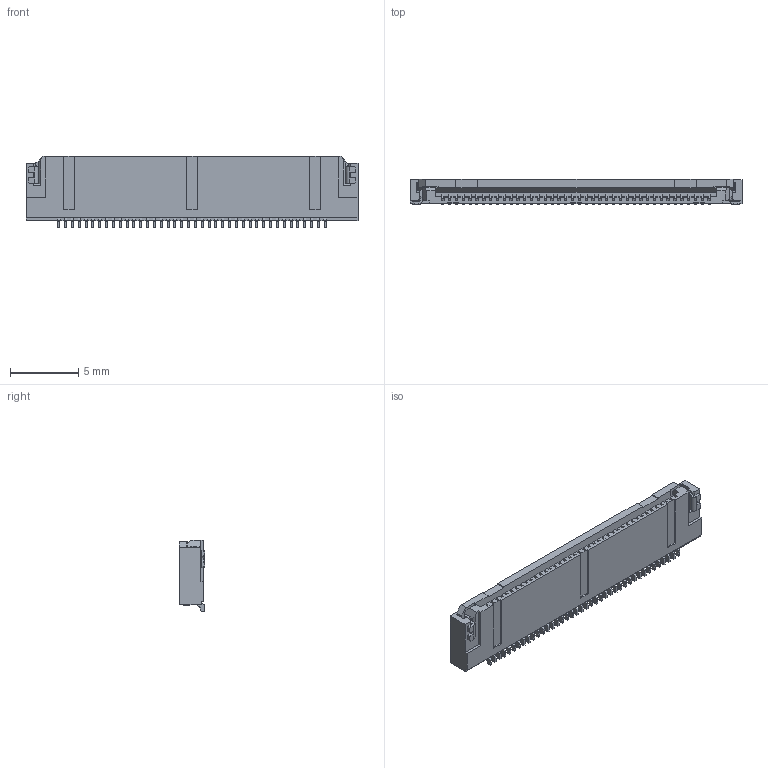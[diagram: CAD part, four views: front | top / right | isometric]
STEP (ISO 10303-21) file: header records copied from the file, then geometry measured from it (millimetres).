
FILE_DESCRIPTION((''),'2;1');
FILE_NAME('S-52565-040XX-VXX','2022-06-21T',('t00382'),(''),'PRO/ENGINEER BY PARAMETRIC TECHNOLOGY CORPORATION, 2007450','PRO/ENGINEER BY PARAMETRIC TECHNOLOGY CORPORATION, 2007450','');
FILE_SCHEMA(('AUTOMOTIVE_DESIGN { 1 0 10303 214 1 1 1 1 }'));
Products named in the file (1): S-52565-040XX-VXX
Bounding box: 24.3 x 1.84 x 5.2 mm (x, y, z)
Volume: 123.5 mm3; surface area: 844.4 mm2
Topology: 2 solids, 2 shells, 2709 faces, 8576 edges, 5792 vertices
Faces by surface type: plane 1889, cylinder 814, torus 6
Entity records: 113998 total; most frequent: CARTESIAN_POINT 16951, ORIENTED_EDGE 16814, DIRECTION 15796, EDGE_CURVE 8407, VECTOR 6764, LINE 6764, VERTEX_POINT 5622, AXIS2_PLACEMENT_3D 4516
